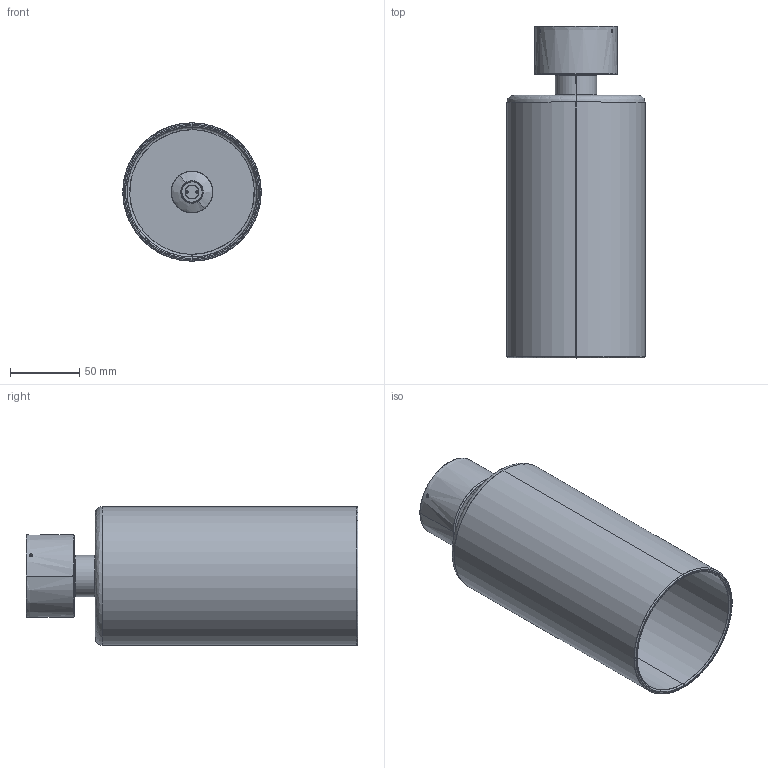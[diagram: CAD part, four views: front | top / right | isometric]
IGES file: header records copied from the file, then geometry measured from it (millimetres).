
Start section: SolidWorks IGES file using analytic representation for surfaces
Global section: file name: \\STORAGE\Tecnico Condiviso\1 FASCICOLI TECNICI\AXO DESIGN\AXO012 SPILLRAY LED INTEGRATO\DISEGNI\PL SPILLRAY\PLSPILXMXXCRINT-PER 3D.IGS; native system: SolidWorks 2024; preprocessor: SolidWorks 2024; author: tecnico3; date: 240527.184936; units: millimetre
Bounding box: 100 x 240 x 100 mm (x, y, z)
Surface area: 154602.1 mm2 (no closed solid volume)
Topology: 0 solids, 0 shells, 109 faces, 2044 edges, 2042 vertices
Faces by surface type: revolution 68, bspline 41
